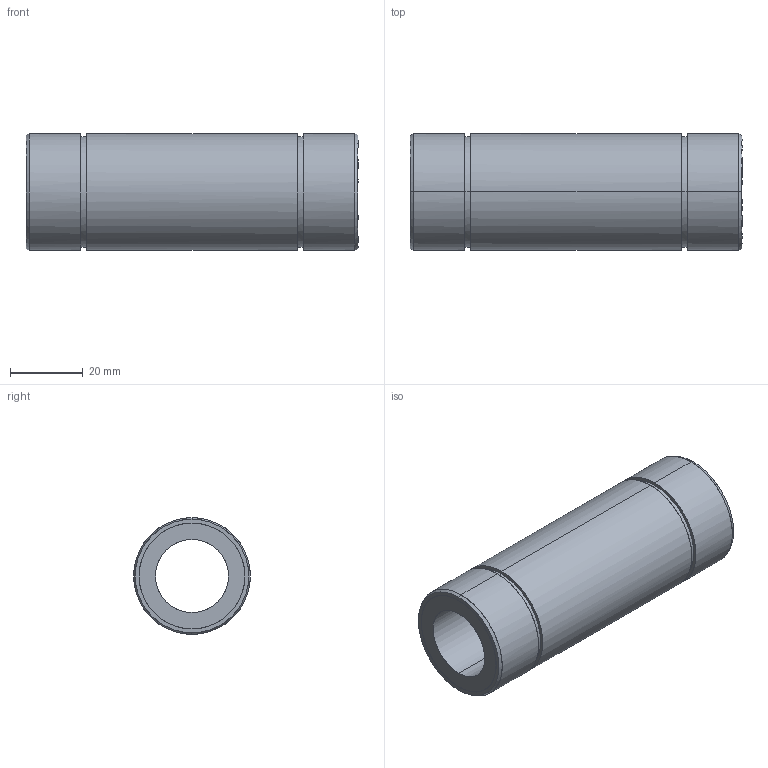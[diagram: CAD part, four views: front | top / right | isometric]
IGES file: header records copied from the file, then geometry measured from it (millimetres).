
Global section: file name: No Iges File Name specified; native system: AutoDesk Inventor R10; preprocessor: AutoDesk Inventor Iges Exporter R10; author: No Author specified; organization: No Organization specified; date: 20101216.152914; units: millimetre
Bounding box: 91 x 32 x 32 mm (x, y, z)
Surface area: 16100 mm2 (no closed solid volume)
Topology: 0 solids, 0 shells, 28 faces, 184 edges, 184 vertices
Faces by surface type: bspline 28
